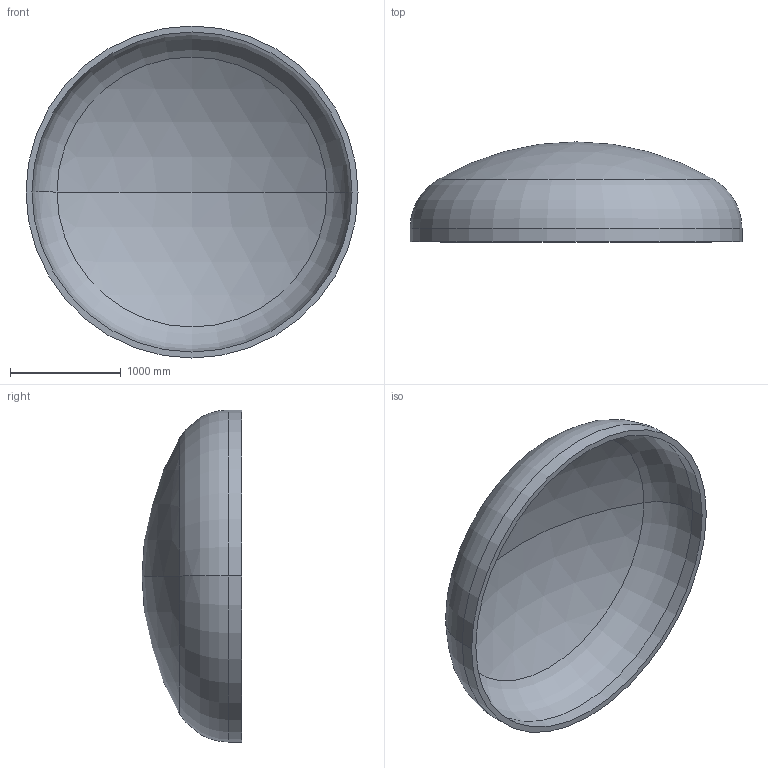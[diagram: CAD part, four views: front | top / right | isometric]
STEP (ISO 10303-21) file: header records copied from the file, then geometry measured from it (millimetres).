
FILE_DESCRIPTION (( 'STEP AP203' ), '1' );
FILE_NAME ('DIN 28013 Korbbogenform_-_Boden DIN 28013 - 3000 x 120 - I - s=54.step', '2016-07-01T17:53:08', ( '' ), ( '' ), 'SwSTEP 2.0', 'SolidWorks 2013', '' );
FILE_SCHEMA (( 'CONFIG_CONTROL_DESIGN' ));
Length unit declared in the file: millimetre
Products named in the file (1): DIN 28013 Korbbogenform_-_Boden DIN 28013 - 3000 x 120 - I - s=54
Bounding box: 3000 x 903.25 x 3000 mm (x, y, z)
Volume: 575787660.8 mm3; surface area: 21831345.9 mm2
Topology: 1 solids, 1 shells, 13 faces, 24 edges, 14 vertices
Faces by surface type: torus 4, cylinder 4, sphere 4, plane 1
Entity records: 407 total; most frequent: DIRECTION 72, CARTESIAN_POINT 52, ORIENTED_EDGE 48, AXIS2_PLACEMENT_3D 34, EDGE_CURVE 24, CIRCLE 20, EDGE_LOOP 14, VERTEX_POINT 14
